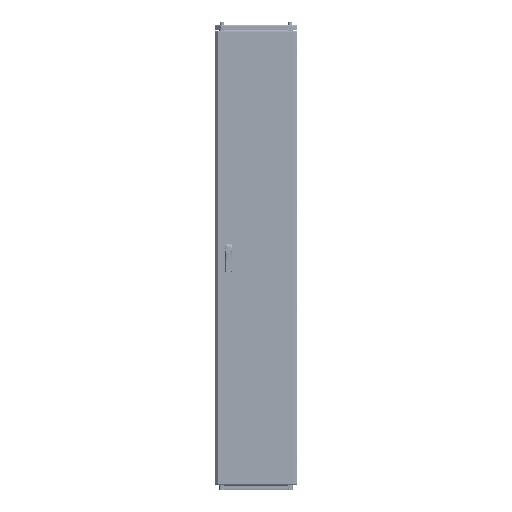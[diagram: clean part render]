
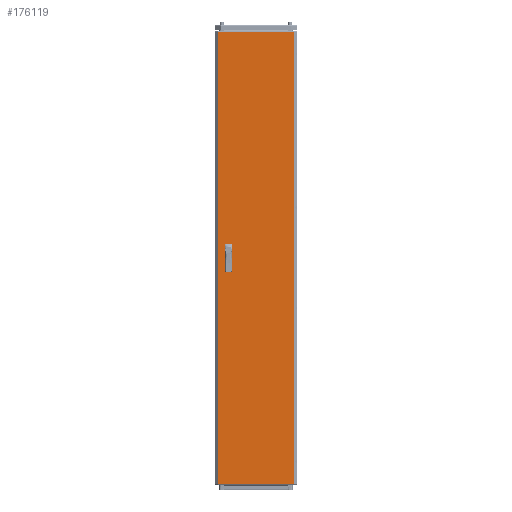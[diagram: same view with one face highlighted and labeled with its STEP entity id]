
A CAD part, top view. The second image highlights one B-rep face of the part: STEP entity #176119.
In plain terms, the highlighted planar face has unit normal (0, 0, 1).
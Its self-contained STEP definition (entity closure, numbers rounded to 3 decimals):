
#783 = VERTEX_POINT ( 'NONE', #200380 ) ;
#7056 = LINE ( 'NONE', #174568, #76003 ) ;
#10179 = FACE_OUTER_BOUND ( 'NONE', #82420, .T. ) ;
#11560 = LINE ( 'NONE', #85550, #214286 ) ;
#14390 = LINE ( 'NONE', #162472, #224770 ) ;
#14984 = FACE_BOUND ( 'NONE', #38147, .T. ) ;
#22726 = CARTESIAN_POINT ( 'NONE',  ( -142.5, -62.5, 0. ) ) ;
#26735 = EDGE_CURVE ( 'NONE', #109714, #38377, #171207, .T. ) ;
#27716 = CARTESIAN_POINT ( 'NONE',  ( 177.875, 1069.5, 0. ) ) ;
#27799 = ORIENTED_EDGE ( 'NONE', *, *, #74829, .T. ) ;
#37231 = ORIENTED_EDGE ( 'NONE', *, *, #122283, .F. ) ;
#38147 = EDGE_LOOP ( 'NONE', ( #172452, #149733, #109059, #37231 ) ) ;
#38377 = VERTEX_POINT ( 'NONE', #82868 ) ;
#39763 = LINE ( 'NONE', #113822, #189744 ) ;
#40833 = CARTESIAN_POINT ( 'NONE',  ( -142.5, -12.5, 0. ) ) ;
#41623 = DIRECTION ( 'NONE',  ( 1., 0., 0. ) ) ;
#42319 = EDGE_CURVE ( 'NONE', #229488, #129880, #117587, .T. ) ;
#43043 = VERTEX_POINT ( 'NONE', #134172 ) ;
#47099 = CARTESIAN_POINT ( 'NONE',  ( -177.875, 1069.5, 0. ) ) ;
#47335 = VECTOR ( 'NONE', #182911, 1000. ) ;
#47775 = CARTESIAN_POINT ( 'NONE',  ( 0., 0., 0. ) ) ;
#50670 = LINE ( 'NONE', #124771, #145182 ) ;
#54359 = VERTEX_POINT ( 'NONE', #91139 ) ;
#55889 = LINE ( 'NONE', #92366, #208580 ) ;
#63391 = ORIENTED_EDGE ( 'NONE', *, *, #42319, .T. ) ;
#73270 = ORIENTED_EDGE ( 'NONE', *, *, #114288, .T. ) ;
#74552 = EDGE_CURVE ( 'NONE', #38377, #127480, #108829, .T. ) ;
#74615 = CARTESIAN_POINT ( 'NONE',  ( -117.5, -62.5, 0. ) ) ;
#74829 = EDGE_CURVE ( 'NONE', #98449, #152209, #11560, .T. ) ;
#76003 = VECTOR ( 'NONE', #159650, 1000. ) ;
#77368 = DIRECTION ( 'NONE',  ( 0., 1., 0. ) ) ;
#81105 = ORIENTED_EDGE ( 'NONE', *, *, #165813, .T. ) ;
#82420 = EDGE_LOOP ( 'NONE', ( #81105, #63391, #73270, #27799 ) ) ;
#82868 = CARTESIAN_POINT ( 'NONE',  ( -142.5, 12.5, 0. ) ) ;
#83590 = DIRECTION ( 'NONE',  ( -1., 0., 0. ) ) ;
#85550 = CARTESIAN_POINT ( 'NONE',  ( -177.875, -1069.5, 0. ) ) ;
#87637 = CARTESIAN_POINT ( 'NONE',  ( -117.5, 12.5, 0. ) ) ;
#87875 = ORIENTED_EDGE ( 'NONE', *, *, #74552, .F. ) ;
#89199 = ORIENTED_EDGE ( 'NONE', *, *, #26735, .F. ) ;
#91139 = CARTESIAN_POINT ( 'NONE',  ( -117.5, -12.5, 0. ) ) ;
#91879 = EDGE_CURVE ( 'NONE', #127480, #43043, #7056, .T. ) ;
#92366 = CARTESIAN_POINT ( 'NONE',  ( -177.875, -1069.5, 0. ) ) ;
#94934 = EDGE_CURVE ( 'NONE', #783, #234725, #226198, .T. ) ;
#97163 = DIRECTION ( 'NONE',  ( 0., -1., 0. ) ) ;
#98449 = VERTEX_POINT ( 'NONE', #149012 ) ;
#102617 = CARTESIAN_POINT ( 'NONE',  ( 177.875, -1069.5, 0. ) ) ;
#103635 = DIRECTION ( 'NONE',  ( 0., 0., -1. ) ) ;
#106539 = DIRECTION ( 'NONE',  ( -1., 0., 0. ) ) ;
#108829 = LINE ( 'NONE', #238785, #47335 ) ;
#109059 = ORIENTED_EDGE ( 'NONE', *, *, #94934, .F. ) ;
#109714 = VERTEX_POINT ( 'NONE', #163409 ) ;
#110229 = ORIENTED_EDGE ( 'NONE', *, *, #211440, .F. ) ;
#113822 = CARTESIAN_POINT ( 'NONE',  ( -117.5, -62.5, 0. ) ) ;
#114288 = EDGE_CURVE ( 'NONE', #129880, #98449, #55889, .T. ) ;
#117587 = LINE ( 'NONE', #47099, #218242 ) ;
#118430 = DIRECTION ( 'NONE',  ( 0., 1., 0. ) ) ;
#120944 = VECTOR ( 'NONE', #208482, 1000. ) ;
#122015 = AXIS2_PLACEMENT_3D ( 'NONE', #47775, #103635, #195918 ) ;
#122283 = EDGE_CURVE ( 'NONE', #198713, #783, #189033, .T. ) ;
#124771 = CARTESIAN_POINT ( 'NONE',  ( -142.5, -12.5, 0. ) ) ;
#127480 = VERTEX_POINT ( 'NONE', #87637 ) ;
#129880 = VERTEX_POINT ( 'NONE', #207804 ) ;
#130572 = VECTOR ( 'NONE', #118430, 1000. ) ;
#134172 = CARTESIAN_POINT ( 'NONE',  ( -117.5, 62.5, 0. ) ) ;
#135445 = LINE ( 'NONE', #102617, #130572 ) ;
#145182 = VECTOR ( 'NONE', #106539, 1000. ) ;
#149012 = CARTESIAN_POINT ( 'NONE',  ( -177.875, -1069.5, 0. ) ) ;
#149733 = ORIENTED_EDGE ( 'NONE', *, *, #181982, .F. ) ;
#150718 = VECTOR ( 'NONE', #41623, 1000. ) ;
#152209 = VERTEX_POINT ( 'NONE', #219823 ) ;
#159650 = DIRECTION ( 'NONE',  ( 0., 1., 0. ) ) ;
#160543 = EDGE_CURVE ( 'NONE', #54359, #198713, #50670, .T. ) ;
#162472 = CARTESIAN_POINT ( 'NONE',  ( -142.5, 62.5, 0. ) ) ;
#163409 = CARTESIAN_POINT ( 'NONE',  ( -142.5, 62.5, 0. ) ) ;
#165813 = EDGE_CURVE ( 'NONE', #152209, #229488, #135445, .T. ) ;
#167808 = EDGE_LOOP ( 'NONE', ( #110229, #224915, #87875, #89199 ) ) ;
#171207 = LINE ( 'NONE', #207675, #230218 ) ;
#172452 = ORIENTED_EDGE ( 'NONE', *, *, #160543, .F. ) ;
#174568 = CARTESIAN_POINT ( 'NONE',  ( -117.5, 12.5, 0. ) ) ;
#176119 = ADVANCED_FACE ( 'NONE', ( #199504, #14984, #10179 ), #214159, .F. ) ;
#181982 = EDGE_CURVE ( 'NONE', #234725, #54359, #39763, .T. ) ;
#182911 = DIRECTION ( 'NONE',  ( 1., 0., 0. ) ) ;
#189033 = LINE ( 'NONE', #22726, #120944 ) ;
#189744 = VECTOR ( 'NONE', #77368, 1000. ) ;
#195251 = DIRECTION ( 'NONE',  ( -1., 0., 0. ) ) ;
#195918 = DIRECTION ( 'NONE',  ( -1., 0., 0. ) ) ;
#198713 = VERTEX_POINT ( 'NONE', #40833 ) ;
#199504 = FACE_BOUND ( 'NONE', #167808, .T. ) ;
#200380 = CARTESIAN_POINT ( 'NONE',  ( -142.5, -62.5, 0. ) ) ;
#207675 = CARTESIAN_POINT ( 'NONE',  ( -142.5, 12.5, 0. ) ) ;
#207804 = CARTESIAN_POINT ( 'NONE',  ( -177.875, 1069.5, 0. ) ) ;
#207995 = CARTESIAN_POINT ( 'NONE',  ( -142.5, -62.5, 0. ) ) ;
#208482 = DIRECTION ( 'NONE',  ( 0., -1., 0. ) ) ;
#208580 = VECTOR ( 'NONE', #222299, 1000. ) ;
#211440 = EDGE_CURVE ( 'NONE', #43043, #109714, #14390, .T. ) ;
#214159 = PLANE ( 'NONE',  #122015 ) ;
#214286 = VECTOR ( 'NONE', #231301, 1000. ) ;
#218242 = VECTOR ( 'NONE', #195251, 1000. ) ;
#219823 = CARTESIAN_POINT ( 'NONE',  ( 177.875, -1069.5, 0. ) ) ;
#222299 = DIRECTION ( 'NONE',  ( 0., -1., 0. ) ) ;
#224770 = VECTOR ( 'NONE', #83590, 1000. ) ;
#224915 = ORIENTED_EDGE ( 'NONE', *, *, #91879, .F. ) ;
#226198 = LINE ( 'NONE', #207995, #150718 ) ;
#229488 = VERTEX_POINT ( 'NONE', #27716 ) ;
#230218 = VECTOR ( 'NONE', #97163, 1000. ) ;
#231301 = DIRECTION ( 'NONE',  ( 1., 0., 0. ) ) ;
#234725 = VERTEX_POINT ( 'NONE', #74615 ) ;
#238785 = CARTESIAN_POINT ( 'NONE',  ( -142.5, 12.5, 0. ) ) ;
